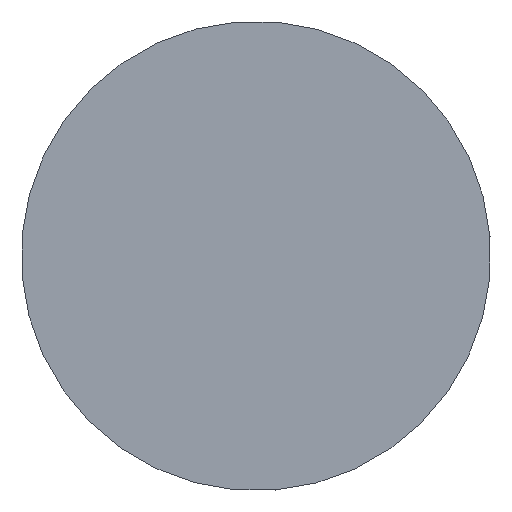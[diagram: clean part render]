
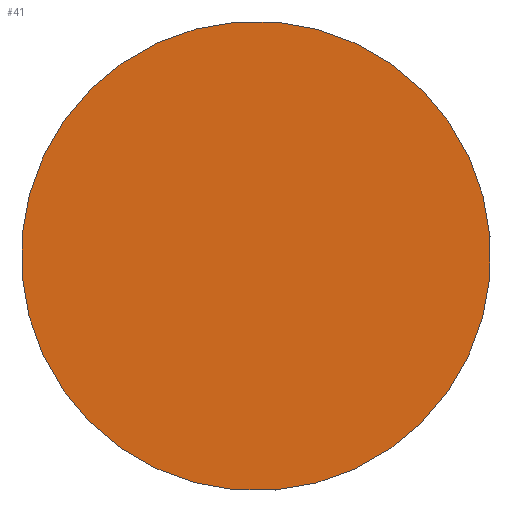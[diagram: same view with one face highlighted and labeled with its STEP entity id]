
A CAD part, left-side view. The second image highlights one B-rep face of the part: STEP entity #41.
In plain terms, the highlighted planar face has unit normal (-1, 0, 0).
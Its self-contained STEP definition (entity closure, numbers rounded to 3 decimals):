
#41 = ADVANCED_FACE ( 'NONE', ( #235 ), #181, .T. ) ;
#60 = AXIS2_PLACEMENT_3D ( 'NONE', #271, #140, #273 ) ;
#77 = CARTESIAN_POINT ( 'NONE',  ( -60., 0., -3. ) ) ;
#133 = EDGE_CURVE ( 'NONE', #254, #173, #208, .T. ) ;
#140 = DIRECTION ( 'NONE',  ( 1., 0., 0. ) ) ;
#158 = AXIS2_PLACEMENT_3D ( 'NONE', #277, #272, #409 ) ;
#163 = EDGE_CURVE ( 'NONE', #173, #254, #285, .T. ) ;
#173 = VERTEX_POINT ( 'NONE', #425 ) ;
#181 = PLANE ( 'NONE',  #158 ) ;
#208 = CIRCLE ( 'NONE', #60, 3. ) ;
#235 = FACE_OUTER_BOUND ( 'NONE', #433, .T. ) ;
#254 = VERTEX_POINT ( 'NONE', #77 ) ;
#266 = AXIS2_PLACEMENT_3D ( 'NONE', #338, #419, #344 ) ;
#271 = CARTESIAN_POINT ( 'NONE',  ( -60., 0., 0. ) ) ;
#272 = DIRECTION ( 'NONE',  ( -1., 0., 0. ) ) ;
#273 = DIRECTION ( 'NONE',  ( 0., 0., -1. ) ) ;
#277 = CARTESIAN_POINT ( 'NONE',  ( -60., 3., 0. ) ) ;
#285 = CIRCLE ( 'NONE', #266, 3. ) ;
#288 = ORIENTED_EDGE ( 'NONE', *, *, #133, .F. ) ;
#297 = ORIENTED_EDGE ( 'NONE', *, *, #163, .F. ) ;
#338 = CARTESIAN_POINT ( 'NONE',  ( -60., 0., 0. ) ) ;
#344 = DIRECTION ( 'NONE',  ( 0., 0., -1. ) ) ;
#409 = DIRECTION ( 'NONE',  ( 0., 0., 1. ) ) ;
#419 = DIRECTION ( 'NONE',  ( 1., 0., 0. ) ) ;
#425 = CARTESIAN_POINT ( 'NONE',  ( -60., 0., 3. ) ) ;
#433 = EDGE_LOOP ( 'NONE', ( #288, #297 ) ) ;
